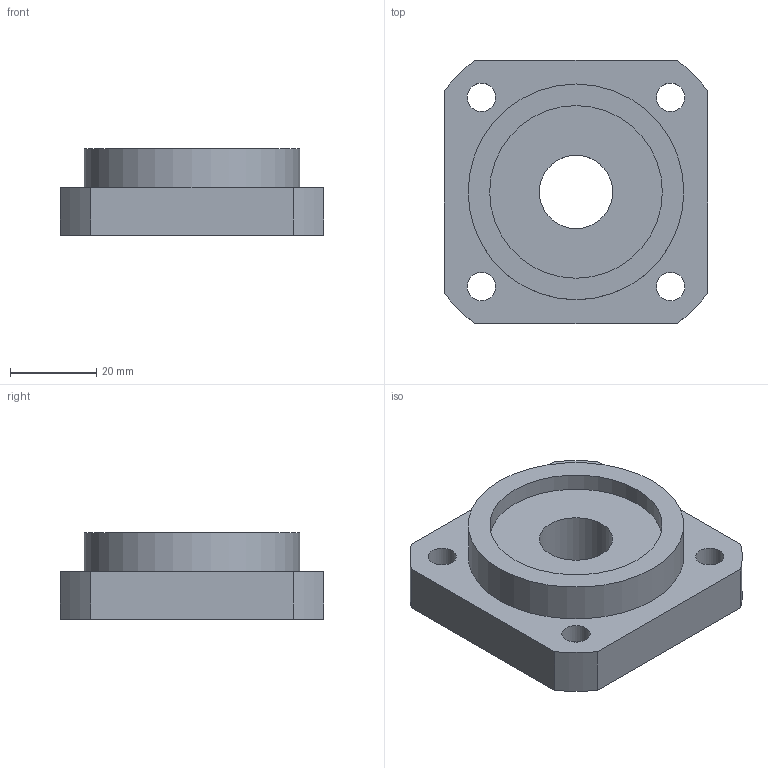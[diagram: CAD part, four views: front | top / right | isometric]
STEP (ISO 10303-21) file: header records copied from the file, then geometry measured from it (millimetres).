
FILE_DESCRIPTION(/* description */ (''),/* implementation_level */ '2;1');
FILE_NAME(/* name */ 'C:\Users\tenki620635\Desktop\官網\圖面\軸承座\3D\setp檔\FF17.stp',/* time_stamp */ '2020-11-23T14:55:35+08:00',/* author */ ('tenki620635'),/* organization */ (''),/* preprocessor_version */ 'ST-DEVELOPER v15.2',/* originating_system */ 'Autodesk Inventor 2014',/* authorisation */ '');
FILE_SCHEMA (('AUTOMOTIVE_DESIGN { 1 0 10303 214 3 1 1 }'));
Length unit declared in the file: millimetre
Products named in the file (1): FF17
Bounding box: 61 x 61 x 20 mm (x, y, z)
Volume: 41752.4 mm3; surface area: 13371.2 mm2
Topology: 1 solids, 1 shells, 29 faces, 60 edges, 40 vertices
Faces by surface type: cylinder 16, plane 13
Full cylindrical faces by diameter (mm): 6.6 x4, 11 x4, 17 x1, 40 x2, 50 x1
Entity records: 767 total; most frequent: DIRECTION 140, CARTESIAN_POINT 118, ORIENTED_EDGE 96, AXIS2_PLACEMENT_3D 62, EDGE_LOOP 58, EDGE_CURVE 48, VERTEX_POINT 40, FACE_BOUND 34
